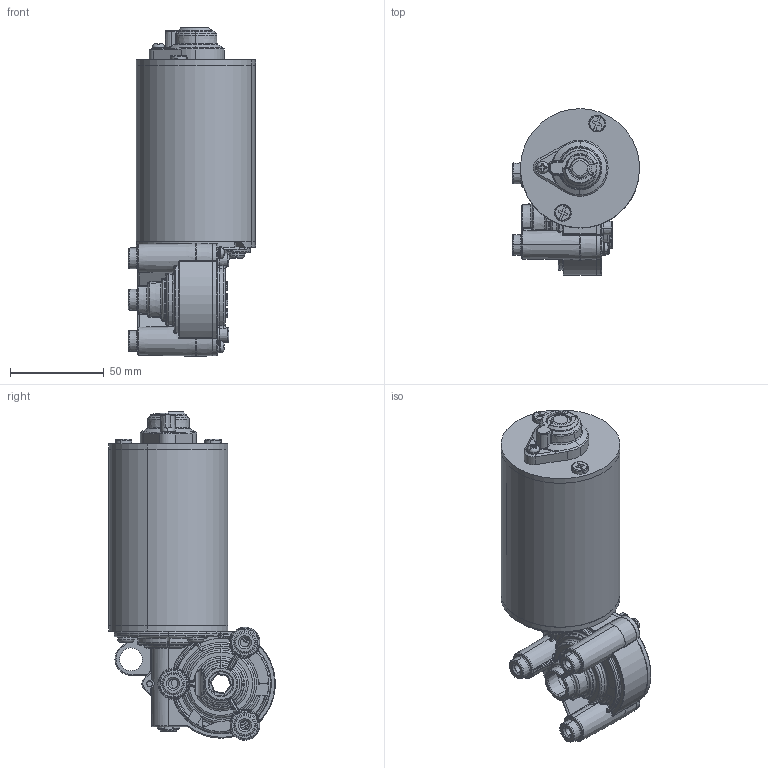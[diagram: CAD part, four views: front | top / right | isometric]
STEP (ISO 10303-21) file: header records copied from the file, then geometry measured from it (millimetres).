
FILE_DESCRIPTION (( 'STEP AP214' ), '1' );
FILE_NAME ('三維成品圖-TGM2（內六角6mm).STEP', '2022-10-18T09:25:03', ( '' ), ( '' ), 'SwSTEP 2.0', 'SolidWorks 2015', '' );
FILE_SCHEMA (( 'AUTOMOTIVE_DESIGN' ));
Length unit declared in the file: millimetre
Products named in the file (1): 三維成品圖-TGM2（內六角6mm)
Bounding box: 67.75 x 88.64 x 175.1 mm (x, y, z)
Surface area: 69608.6 mm2 (no closed solid volume)
Topology: 0 solids, 33 shells, 1334 faces, 4086 edges, 2659 vertices
Faces by surface type: plane 305, bspline 267, cylinder 262, torus 258, cone 173, sphere 69
Entity records: 70283 total; most frequent: CARTESIAN_POINT 22018, ORIENTED_EDGE 6909, DIRECTION 6812, EDGE_CURVE 4044, AXIS2_PLACEMENT_3D 2847, VERTEX_POINT 2652, CIRCLE 1779, EDGE_LOOP 1395
